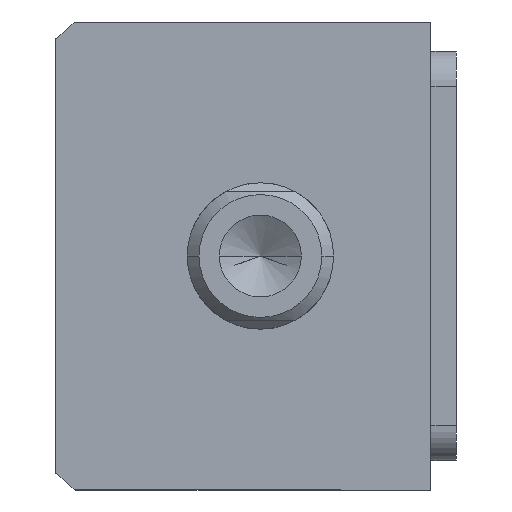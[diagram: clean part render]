
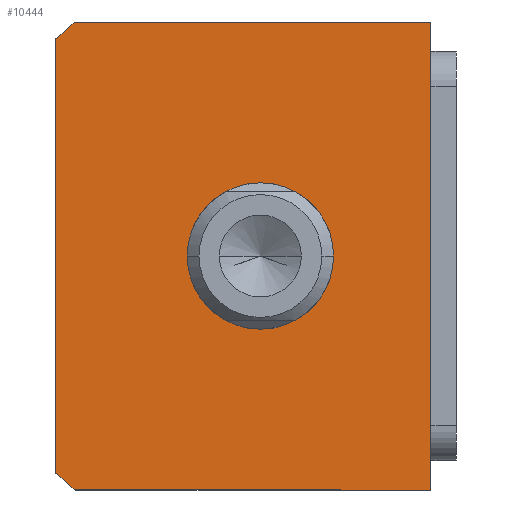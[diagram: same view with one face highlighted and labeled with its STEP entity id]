
A CAD part, front view. The second image highlights one B-rep face of the part: STEP entity #10444.
In plain terms, the highlighted planar face has unit normal (0, -1, 0) as drawn and (0, 0, -1) by its records, which use the part's own axes.
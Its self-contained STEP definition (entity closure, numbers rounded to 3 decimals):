
#23 = EDGE_CURVE ( 'NONE', #9202, #3478, #10732, .T. ) ;
#116 = CARTESIAN_POINT ( 'NONE',  ( -40., 32., 0. ) ) ;
#145 = ORIENTED_EDGE ( 'NONE', *, *, #3209, .F. ) ;
#178 = VECTOR ( 'NONE', #8931, 1000. ) ;
#231 = DIRECTION ( 'NONE',  ( 1., 0., 0. ) ) ;
#697 = AXIS2_PLACEMENT_3D ( 'NONE', #8012, #2060, #3797 ) ;
#909 = AXIS2_PLACEMENT_3D ( 'NONE', #4501, #10315, #5325 ) ;
#959 = DIRECTION ( 'NONE',  ( 0., -1., 0. ) ) ;
#1064 = FACE_BOUND ( 'NONE', #5815, .T. ) ;
#1126 = CARTESIAN_POINT ( 'NONE',  ( -40., 32., 0. ) ) ;
#1131 = CARTESIAN_POINT ( 'NONE',  ( -12.5, 3., 0. ) ) ;
#1363 = CARTESIAN_POINT ( 'NONE',  ( 0., 0., 0. ) ) ;
#1377 = CIRCLE ( 'NONE', #909, 51. ) ;
#1968 = EDGE_CURVE ( 'NONE', #8803, #9734, #2657, .T. ) ;
#2060 = DIRECTION ( 'NONE',  ( 0., 0., 1. ) ) ;
#2112 = ORIENTED_EDGE ( 'NONE', *, *, #4822, .F. ) ;
#2238 = EDGE_CURVE ( 'NONE', #4506, #9202, #1377, .T. ) ;
#2657 = CIRCLE ( 'NONE', #697, 12.5 ) ;
#3209 = EDGE_CURVE ( 'NONE', #4159, #9576, #9673, .T. ) ;
#3478 = VERTEX_POINT ( 'NONE', #5173 ) ;
#3587 = CARTESIAN_POINT ( 'NONE',  ( -40., -28.639, 0. ) ) ;
#3797 = DIRECTION ( 'NONE',  ( 1., 0., 0. ) ) ;
#3841 = DIRECTION ( 'NONE',  ( 0., 0., 1. ) ) ;
#3878 = DIRECTION ( 'NONE',  ( 0., 0., 1. ) ) ;
#4096 = VERTEX_POINT ( 'NONE', #1126 ) ;
#4159 = VERTEX_POINT ( 'NONE', #4588 ) ;
#4250 = EDGE_CURVE ( 'NONE', #9734, #8803, #5731, .T. ) ;
#4378 = VECTOR ( 'NONE', #9692, 1000. ) ;
#4388 = ORIENTED_EDGE ( 'NONE', *, *, #4250, .T. ) ;
#4417 = ORIENTED_EDGE ( 'NONE', *, *, #7951, .F. ) ;
#4501 = CARTESIAN_POINT ( 'NONE',  ( 0., 3., 0. ) ) ;
#4506 = VERTEX_POINT ( 'NONE', #3587 ) ;
#4588 = CARTESIAN_POINT ( 'NONE',  ( 40., -28.639, 0. ) ) ;
#4646 = AXIS2_PLACEMENT_3D ( 'NONE', #1363, #3841, #9669 ) ;
#4822 = EDGE_CURVE ( 'NONE', #9576, #4096, #9243, .T. ) ;
#5173 = CARTESIAN_POINT ( 'NONE',  ( 37.094, -32., 0. ) ) ;
#5176 = DIRECTION ( 'NONE',  ( 0., 0., 1. ) ) ;
#5325 = DIRECTION ( 'NONE',  ( 1., 0., 0. ) ) ;
#5374 = ORIENTED_EDGE ( 'NONE', *, *, #1968, .T. ) ;
#5455 = CIRCLE ( 'NONE', #5615, 51. ) ;
#5534 = CARTESIAN_POINT ( 'NONE',  ( -40., -32., 0. ) ) ;
#5575 = VECTOR ( 'NONE', #959, 1000. ) ;
#5615 = AXIS2_PLACEMENT_3D ( 'NONE', #10160, #5176, #231 ) ;
#5630 = CARTESIAN_POINT ( 'NONE',  ( 12.5, 3., 0. ) ) ;
#5711 = CARTESIAN_POINT ( 'NONE',  ( 40., 32., 0. ) ) ;
#5731 = CIRCLE ( 'NONE', #7849, 12.5 ) ;
#5815 = EDGE_LOOP ( 'NONE', ( #4388, #5374 ) ) ;
#5985 = EDGE_LOOP ( 'NONE', ( #7378, #7501, #2112, #145, #4417, #10636 ) ) ;
#6408 = CARTESIAN_POINT ( 'NONE',  ( -40., 32., 0. ) ) ;
#6487 = EDGE_CURVE ( 'NONE', #4096, #4506, #7800, .T. ) ;
#7171 = CARTESIAN_POINT ( 'NONE',  ( 40., 32., 0. ) ) ;
#7378 = ORIENTED_EDGE ( 'NONE', *, *, #2238, .F. ) ;
#7448 = VECTOR ( 'NONE', #9916, 1000. ) ;
#7501 = ORIENTED_EDGE ( 'NONE', *, *, #6487, .F. ) ;
#7662 = FACE_OUTER_BOUND ( 'NONE', #5985, .T. ) ;
#7800 = LINE ( 'NONE', #116, #5575 ) ;
#7849 = AXIS2_PLACEMENT_3D ( 'NONE', #8870, #3878, #9710 ) ;
#7951 = EDGE_CURVE ( 'NONE', #3478, #4159, #5455, .T. ) ;
#8012 = CARTESIAN_POINT ( 'NONE',  ( 0., 3., 0. ) ) ;
#8803 = VERTEX_POINT ( 'NONE', #1131 ) ;
#8833 = PLANE ( 'NONE',  #4646 ) ;
#8870 = CARTESIAN_POINT ( 'NONE',  ( 0., 3., 0. ) ) ;
#8931 = DIRECTION ( 'NONE',  ( -1., 0., 0. ) ) ;
#9202 = VERTEX_POINT ( 'NONE', #9898 ) ;
#9243 = LINE ( 'NONE', #6408, #178 ) ;
#9576 = VERTEX_POINT ( 'NONE', #7171 ) ;
#9669 = DIRECTION ( 'NONE',  ( 1., 0., 0. ) ) ;
#9673 = LINE ( 'NONE', #5711, #7448 ) ;
#9692 = DIRECTION ( 'NONE',  ( 1., 0., 0. ) ) ;
#9710 = DIRECTION ( 'NONE',  ( 1., 0., 0. ) ) ;
#9734 = VERTEX_POINT ( 'NONE', #5630 ) ;
#9898 = CARTESIAN_POINT ( 'NONE',  ( -37.094, -32., 0. ) ) ;
#9916 = DIRECTION ( 'NONE',  ( 0., 1., 0. ) ) ;
#10160 = CARTESIAN_POINT ( 'NONE',  ( 0., 3., 0. ) ) ;
#10315 = DIRECTION ( 'NONE',  ( 0., 0., 1. ) ) ;
#10444 = ADVANCED_FACE ( 'NONE', ( #1064, #7662 ), #8833, .F. ) ;
#10636 = ORIENTED_EDGE ( 'NONE', *, *, #23, .F. ) ;
#10732 = LINE ( 'NONE', #5534, #4378 ) ;
